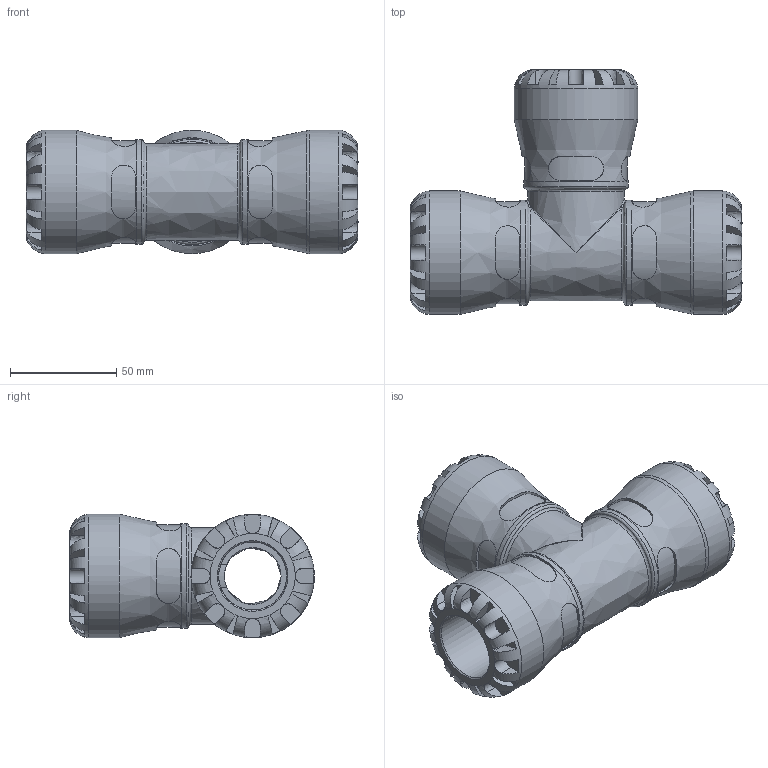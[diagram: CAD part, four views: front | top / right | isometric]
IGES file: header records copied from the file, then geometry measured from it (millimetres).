
Global section: file name: 150400032; native system: Autodesk Inventor 2019; preprocessor: unknown; author: KIM; date: 20231017.192329; units: millimetre
Bounding box: 156 x 115 x 58 mm (x, y, z)
Volume: 288816.5 mm3; surface area: 66704.6 mm2
Topology: 1 solids, 1 shells, 298 faces, 795 edges, 505 vertices
Faces by surface type: bspline 298
